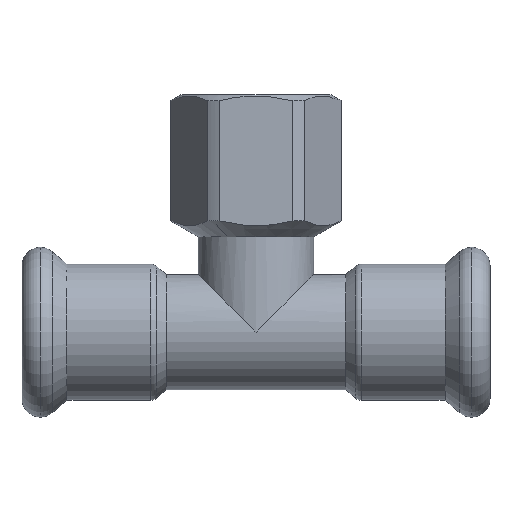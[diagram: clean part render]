
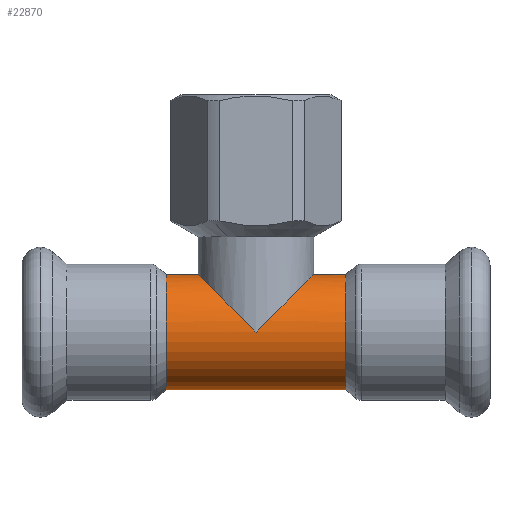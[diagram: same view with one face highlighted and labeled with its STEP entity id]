
A CAD part, top view. The second image highlights one B-rep face of the part: STEP entity #22870.
In plain terms, the highlighted cylindrical face has radius 9 mm (diameter 18 mm), a partial arc.
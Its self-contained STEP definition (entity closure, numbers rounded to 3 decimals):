
#6220=CARTESIAN_POINT('',(-188.976,14.121,
0.));
#6230=VERTEX_POINT('',#6220);
#6410=CARTESIAN_POINT('',(-188.976,32.121,
0.));
#6420=VERTEX_POINT('',#6410);
#6450=CARTESIAN_POINT('',(-188.976,23.121,
0.));
#6460=DIRECTION('',(1.,0.,0.));
#6470=DIRECTION('',(0.,-1.,0.));
#6480=AXIS2_PLACEMENT_3D('',#6450,#6460,#6470);
#6490=CIRCLE('',#6480,9.);
#8310=CARTESIAN_POINT('',(-216.976,32.121,
0.));
#8320=VERTEX_POINT('',#8310);
#8500=CARTESIAN_POINT('',(-216.976,14.121,
0.));
#8510=VERTEX_POINT('',#8500);
#8540=CARTESIAN_POINT('',(-216.976,23.121,
0.));
#8550=DIRECTION('',(-1.,0.,0.));
#8560=DIRECTION('',(0.,1.,0.));
#8570=AXIS2_PLACEMENT_3D('',#8540,#8550,#8560);
#8580=CIRCLE('',#8570,9.);
#17860=CARTESIAN_POINT('',(-216.976,23.121,
0.));
#17870=DIRECTION('',(-1.,0.,0.));
#17880=DIRECTION('',(0.,-1.,0.));
#17890=AXIS2_PLACEMENT_3D('',#17860,#17870,#17880);
#17900=CYLINDRICAL_SURFACE('',#17890,9.);
#17910=CARTESIAN_POINT('',(-216.976,32.121,
0.));
#17920=DIRECTION('',(-1.,0.,0.));
#17930=VECTOR('',#17920,1.);
#17940=LINE('',#17910,#17930);
#17950=CARTESIAN_POINT('',(-193.976,32.121,
0.));
#17960=VERTEX_POINT('',#17950);
#17970=EDGE_CURVE('',#6420,#17960,#17940,.T.);
#17990=CARTESIAN_POINT('',(-202.976,23.121,
0.));
#18000=DIRECTION('',(-0.707,0.707,
0.));
#18010=DIRECTION('',(-0.707,-0.707,
0.));
#18020=AXIS2_PLACEMENT_3D('',#17990,#18000,#18010);
#18030=ELLIPSE('',#18020,12.728,9.);
#18080=CARTESIAN_POINT('',(-202.976,23.121,
0.));
#18090=DIRECTION('',(-0.707,-0.707,
0.));
#18100=DIRECTION('',(-0.707,0.707,
0.));
#18110=AXIS2_PLACEMENT_3D('',#18080,#18090,#18100);
#18120=ELLIPSE('',#18110,12.728,9.);
#18130=CARTESIAN_POINT('',(-211.976,32.121,
0.));
#18140=VERTEX_POINT('',#18130);
#18170=EDGE_CURVE('',#18140,#8320,#17940,.T.);
#18200=CARTESIAN_POINT('',(-216.976,14.121,
0.));
#18210=DIRECTION('',(-1.,0.,0.));
#18220=VECTOR('',#18210,1.);
#18230=LINE('',#18200,#18220);
#18240=EDGE_CURVE('',#6230,#8510,#18230,.T.);
#22720=CARTESIAN_POINT('',(-202.976,23.121,9.));
#22730=VERTEX_POINT('',#22720);
#22740=EDGE_CURVE('',#22730,#18140,#18120,.T.);
#22750=ORIENTED_EDGE('',*,*,#22740,.T.);
#22760=EDGE_CURVE('',#22730,#17960,#18030,.T.);
#22770=ORIENTED_EDGE('',*,*,#22760,.F.);
#22780=ORIENTED_EDGE('',*,*,#17970,.T.);
#22790=EDGE_CURVE('',#6420,#6230,#6490,.T.);
#22800=ORIENTED_EDGE('',*,*,#22790,.F.);
#22810=ORIENTED_EDGE('',*,*,#18240,.F.);
#22820=EDGE_CURVE('',#8510,#8320,#8580,.T.);
#22830=ORIENTED_EDGE('',*,*,#22820,.F.);
#22840=ORIENTED_EDGE('',*,*,#18170,.T.);
#22850=EDGE_LOOP('',(#22840,#22830,#22810,#22800,#22780,#22770,#22750));
#22860=FACE_OUTER_BOUND('',#22850,.T.);
#22870=ADVANCED_FACE('',(#22860),#17900,.T.);
